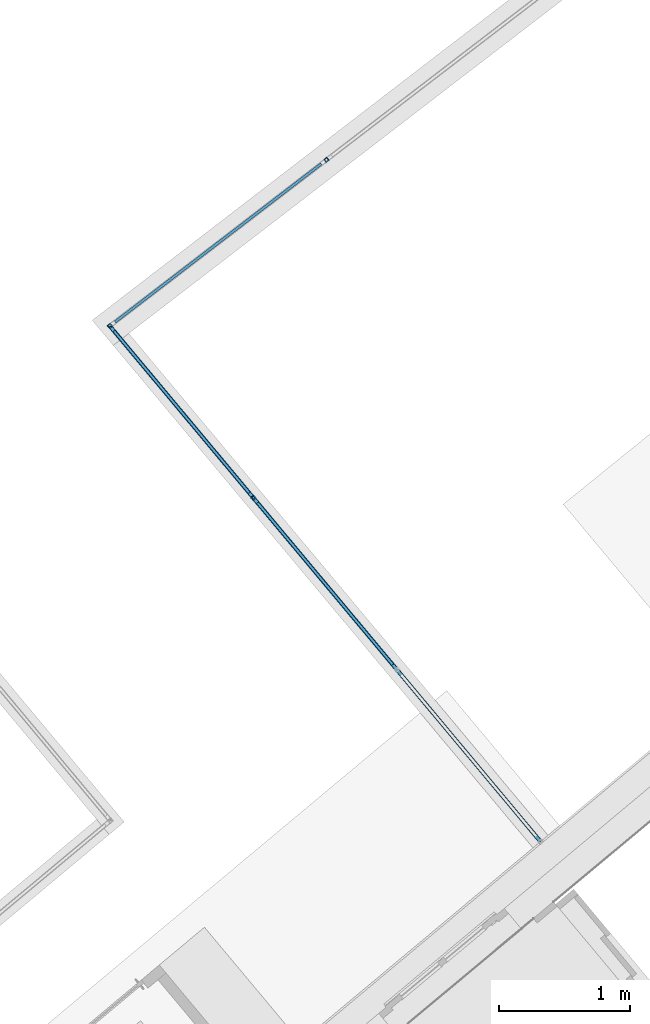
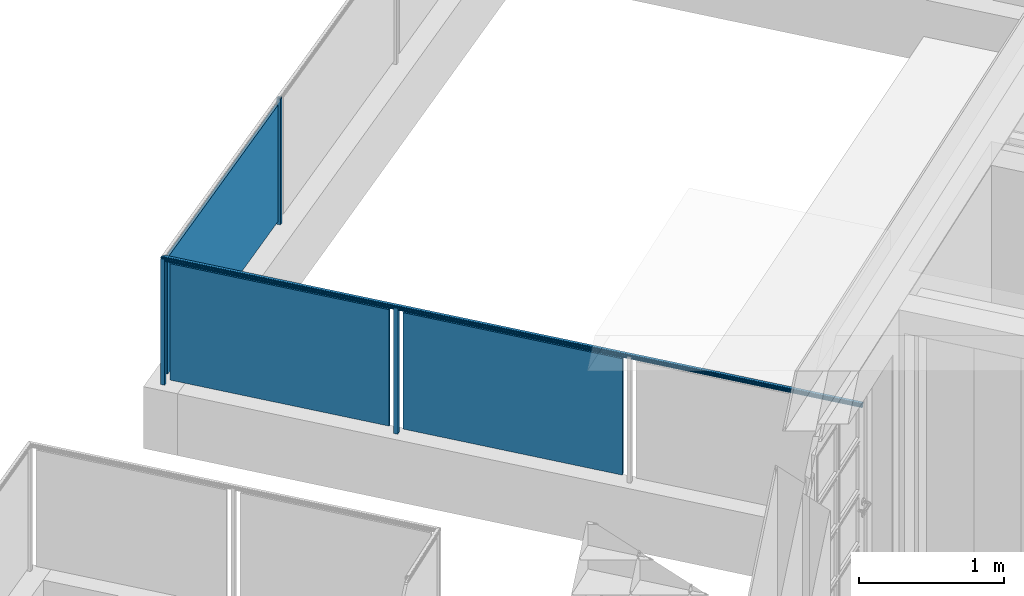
# One storey, part 39 of 67: 7 building element parts, 1 element without a shape of its own.
"""IFC4 building model written with IfcOpenShell, lengths in metres."""

import ifcopenshell
import ifcopenshell.guid

model = None  # the IFC model being written
_history = None  # IfcOwnerHistory: only IFC2X3 demands one
_inside = {}  # id of a spatial element -> (the spatial element, [elements in it])
_under = {}  # id of a project, library or spatial element -> (it, [spatial elements below it])
_declared = {}  # id of a project -> (the project, [libraries it declares])
_typed = {}  # id of a type object -> (the type object, [elements of that type])
_made_of = {}  # id of a material, layer set ... -> (it, [elements and type objects made of it])


def new_model(schema):
    """Start an empty IFC model of exactly this schema.

    Asked for "IFC4X3", IfcOpenShell would pick the latest addendum, in which some entities
    have other attributes; the version numbers below select the first issue.
    IFC2X3 requires an IfcOwnerHistory on every rooted entity: one is made here for all.
    """
    global model, _history
    if schema == "IFC4X3":
        model = ifcopenshell.file(schema_version=(4, 3, 0, 0))
    else:
        model = ifcopenshell.file(schema=schema)
    _inside.clear()
    _under.clear()
    _declared.clear()
    _typed.clear()
    _made_of.clear()
    _history = None
    if model.schema == "IFC2X3":
        org = make("IfcOrganization", Name="unknown")
        user = make(
            "IfcPersonAndOrganization",
            ThePerson=make("IfcPerson", FamilyName="unknown"),
            TheOrganization=org,
        )
        app = make(
            "IfcApplication",
            ApplicationDeveloper=org,
            Version="unknown",
            ApplicationFullName="unknown",
            ApplicationIdentifier="unknown",
        )
        _history = make(
            "IfcOwnerHistory",
            OwningUser=user,
            OwningApplication=app,
            ChangeAction="ADDED",
            CreationDate=0,
        )
    return model


def make(cls, **values):
    """One entity of the class cls with the attributes given. An attribute that is None is left unset."""
    return model.create_entity(
        cls, **{name: value for name, value in values.items() if value is not None}
    )


def entity(cls, *values):
    """Any entity or typed value of the class cls, its attributes in the order of the schema. None: left unset."""
    e = model.create_entity(cls)
    for i, value in enumerate(values):
        if value is not None:
            e[i] = value
    return e


def rooted(cls, **values):
    """An entity with a GlobalId (a new one), such as an element, a storey or a relation."""
    return make(cls, GlobalId=ifcopenshell.guid.new(), OwnerHistory=_history, **values)


def si_unit(unit_type, name, prefix=None):
    """IfcSIUnit, for example si_unit("LENGTHUNIT", "METRE", prefix="MILLI")."""
    return make("IfcSIUnit", UnitType=unit_type, Prefix=prefix, Name=name)


def converted_unit(unit_type, name, factor, base, dimensions=None, offset=None):
    """IfcConversionBasedUnit, such as the inch: factor (a typed value) times the base unit."""
    return make(
        "IfcConversionBasedUnit"
        if offset is None
        else "IfcConversionBasedUnitWithOffset",
        ConversionOffset=offset,
        Dimensions=None
        if dimensions is None
        else entity("IfcDimensionalExponents", *dimensions),
        UnitType=unit_type,
        Name=name,
        ConversionFactor=make(
            "IfcMeasureWithUnit", ValueComponent=factor, UnitComponent=base
        ),
    )


def derived_unit(unit_type, elements):
    """IfcDerivedUnit: a product of units, each with its exponent."""
    return make(
        "IfcDerivedUnit",
        Elements=[
            make("IfcDerivedUnitElement", Unit=unit, Exponent=power)
            for unit, power in elements
        ],
        UnitType=unit_type,
    )


def assignment(units):
    """IfcUnitAssignment: the units of a project."""
    return None if units is None else make("IfcUnitAssignment", Units=units)


def point(xyz):
    """IfcCartesianPoint."""
    return None if xyz is None else make("IfcCartesianPoint", Coordinates=xyz)


def direction(xyz):
    """IfcDirection."""
    return None if xyz is None else make("IfcDirection", DirectionRatios=xyz)


def frame(location, z_axis=None, x_axis=None):
    """IfcAxis2Placement3D, a coordinate frame: its origin and axes. An axis left out is left unset."""
    return make(
        "IfcAxis2Placement3D",
        Location=point(location),
        Axis=direction(z_axis),
        RefDirection=direction(x_axis),
    )


def origin_with_axes():
    """The frame at (0, 0, 0) with the z axis (0, 0, 1) and the x axis (1, 0, 0) written out."""
    return frame((0.0, 0.0, 0.0), z_axis=(0.0, 0.0, 1.0), x_axis=(1.0, 0.0, 0.0))


def place(relative_to, where):
    """IfcLocalPlacement: puts the frame where relative to a parent placement (None: the world)."""
    return make(
        "IfcLocalPlacement", PlacementRelTo=relative_to, RelativePlacement=where
    )


def context(
    kind, dimensions, precision=None, world=None, true_north=None, identifier=None
):
    """IfcGeometricRepresentationContext, for example the 3D "Model" context."""
    return make(
        "IfcGeometricRepresentationContext",
        ContextIdentifier=identifier,
        ContextType=kind,
        CoordinateSpaceDimension=dimensions,
        Precision=precision,
        WorldCoordinateSystem=world,
        TrueNorth=true_north,
    )


def subcontext(parent, identifier, kind, view, scale=None):
    """IfcGeometricRepresentationSubContext, for example "Body" below "Model"."""
    return make(
        "IfcGeometricRepresentationSubContext",
        ContextIdentifier=identifier,
        ContextType=kind,
        ParentContext=parent,
        TargetScale=scale,
        TargetView=view,
    )


def project(units=None, contexts=None):
    """IfcProject with its units and contexts."""
    return rooted(
        "IfcProject",
        Name="project",
        RepresentationContexts=contexts,
        UnitsInContext=assignment(units),
    )


def spatial(cls, under=None, at=None, **own):
    """A site, building, storey or space (cls), placed at a placement, below another one or the project."""
    s = rooted(cls, ObjectPlacement=at, **own)
    if under is not None:
        _under.setdefault(under.id(), (under, []))[1].append(s)
    return s


def point_list(points):
    """IfcCartesianPointList2D or 3D."""
    cls = (
        "IfcCartesianPointList2D" if len(points[0]) == 2 else "IfcCartesianPointList3D"
    )
    return make(cls, CoordList=points)


def polygons(points, faces, closed=None, point_numbers=None):
    """IfcPolygonalFaceSet: a face is its outer loop, then its inner loops; points numbered from 1."""
    made = []
    for loops in faces:
        if len(loops) == 1:
            made.append(make("IfcIndexedPolygonalFace", CoordIndex=loops[0]))
        else:
            made.append(
                make(
                    "IfcIndexedPolygonalFaceWithVoids",
                    CoordIndex=loops[0],
                    InnerCoordIndices=loops[1:],
                )
            )
    return make(
        "IfcPolygonalFaceSet",
        Coordinates=point_list(points),
        Closed=closed,
        Faces=made,
        PnIndex=point_numbers,
    )


def shape(context_of_items, identifier, shape_type, items):
    """IfcShapeRepresentation: the items that make up one representation, for example the "Body"."""
    return make(
        "IfcShapeRepresentation",
        ContextOfItems=context_of_items,
        RepresentationIdentifier=identifier,
        RepresentationType=shape_type,
        Items=items,
    )


def material(Name=None, Category=None):
    """IfcMaterial."""
    return make("IfcMaterial", Name=Name, Category=Category)


def made_of(thing, what):
    """Note that an element or type object is made of a material, layer set ...; save() writes the relation."""
    if what is not None:
        _made_of.setdefault(what.id(), (what, []))[1].append(thing)
    return thing


def type_object(cls, material=None, **own):
    """A type object (cls), such as IfcWallType, which elements share."""
    return made_of(rooted(cls, **own), material)


def element(
    cls,
    number,
    at=None,
    inside=None,
    cuts=None,
    type_object=None,
    material=None,
    context=None,
    identifier="Body",
    shape_type=None,
    held_by="IfcProductDefinitionShape",
    body=None,
    shapes=None,
    **own,
):
    """One element of the class cls, such as IfcWall. Its Tag is "e" and its number.

    at: its placement. inside: the storey or other place that contains it. cuts: it is an
    opening in that element (IfcRelVoidsElement). A single representation is given by context,
    identifier, shape_type and body (its items); several are given by shapes. held_by: the class
    of the entity that holds the representations. save() writes the other relations.
    """
    e = rooted(cls, Tag="e%d" % number, ObjectPlacement=at, **own)
    if body is not None:
        shapes = [shape(context, identifier, shape_type, body)]
    if shapes is not None:
        e.Representation = make(held_by, Representations=shapes)
    if inside is not None:
        _inside.setdefault(inside.id(), (inside, []))[1].append(e)
    if cuts is not None:
        rooted(
            "IfcRelVoidsElement", RelatingBuildingElement=cuts, RelatedOpeningElement=e
        )
    if type_object is not None:
        _typed.setdefault(type_object.id(), (type_object, []))[1].append(e)
    return made_of(e, material)


def aggregate(whole, parts):
    """IfcRelAggregates: a whole, such as a stair, and the parts it consists of."""
    return rooted("IfcRelAggregates", RelatingObject=whole, RelatedObjects=parts)


def save(model, path):
    """Write the relations noted so far, then the file.

    IfcRelAggregates (storeys below a building ...), IfcRelContainedInSpatialStructure (elements
    in a storey), IfcRelDefinesByType, IfcRelAssociatesMaterial and IfcRelDeclares: one each for
    every whole, place, type object, material and project.
    """
    for whole, parts in _under.values():
        aggregate(whole, parts)
    for where, things in _inside.values():
        rooted(
            "IfcRelContainedInSpatialStructure",
            RelatedElements=things,
            RelatingStructure=where,
        )
    for kind, things in _typed.values():
        rooted("IfcRelDefinesByType", RelatedObjects=things, RelatingType=kind)
    for what, things in _made_of.values():
        rooted("IfcRelAssociatesMaterial", RelatedObjects=things, RelatingMaterial=what)
    for by, libraries in _declared.values():
        rooted("IfcRelDeclares", RelatingContext=by, RelatedDefinitions=libraries)
    model.write(path)


model = new_model("IFC4")

# Units and contexts
model_context = context("Model", 3, precision=1e-05, world=origin_with_axes(), true_north=direction((0.0, 1.0)))
body_context = subcontext(model_context, "Body", "Model", "MODEL_VIEW")
ifc_project = project(units=[si_unit("LENGTHUNIT", "METRE"), si_unit("AREAUNIT", "SQUARE_METRE"), si_unit("VOLUMEUNIT", "CUBIC_METRE"), converted_unit("PLANEANGLEUNIT", "DEGREE", entity("IfcPlaneAngleMeasure", 0.0174532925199), si_unit("PLANEANGLEUNIT", "RADIAN"), dimensions=[0, 0, 0, 0, 0, 0, 0]), converted_unit("TIMEUNIT", "Year", entity("IfcTimeMeasure", 31556926.0), si_unit("TIMEUNIT", "SECOND"), dimensions=[0, 0, 1, 0, 0, 0, 0]), si_unit("MASSUNIT", "GRAM", prefix="KILO"), si_unit("THERMODYNAMICTEMPERATUREUNIT", "DEGREE_CELSIUS"), si_unit("LUMINOUSINTENSITYUNIT", "LUMEN"), si_unit("ENERGYUNIT", "JOULE", prefix="MEGA"), derived_unit("THERMALCONDUCTANCEUNIT", [(si_unit("POWERUNIT", "WATT"), 1), (si_unit("LENGTHUNIT", "METRE"), -1), (si_unit("THERMODYNAMICTEMPERATUREUNIT", "KELVIN"), -1)]), derived_unit("SPECIFICHEATCAPACITYUNIT", [(si_unit("ENERGYUNIT", "JOULE"), 1), (si_unit("MASSUNIT", "GRAM", prefix="KILO"), -1), (si_unit("THERMODYNAMICTEMPERATUREUNIT", "KELVIN"), -1)]), derived_unit("MASSDENSITYUNIT", [(si_unit("MASSUNIT", "GRAM", prefix="KILO"), 1), (si_unit("VOLUMEUNIT", "CUBIC_METRE"), -1)])], contexts=[model_context])

# Site, building, storey
site_placement = place(None, frame((-0.00153261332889, -0.00661245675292, 0.0), z_axis=(0.0, 0.0, 1.0), x_axis=(1.0, 0.0, 0.0)))
site = spatial("IfcSite", under=ifc_project, at=site_placement, Name="Site", CompositionType="ELEMENT")
building_placement = place(site_placement, origin_with_axes())
building = spatial("IfcBuilding", under=site, at=building_placement, Name="Building", CompositionType="ELEMENT")
storey_placement = place(building_placement, frame((0.0, 0.0, -0.22), z_axis=(0.0, 0.0, 1.0), x_axis=(1.0, 0.0, 0.0)))
storey = spatial("IfcBuildingStorey", under=building, at=storey_placement, Name="EG", CompositionType="ELEMENT", Elevation=-0.22)

# Railing, building element parts
railing_type = type_object("IfcRailingType", Name="Geländerart", PredefinedType="NOTDEFINED")
railing_placement = place(storey_placement, frame((0.180685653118, 26.4249004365, 0.523948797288), z_axis=(0.0, 0.0, 1.0), x_axis=(1.0, 0.0, 0.0)))
railing = element("IfcRailing", 1, at=railing_placement, inside=storey, type_object=railing_type, Name="Geländer - 001", PredefinedType="NOTDEFINED")
ifc_material_1 = material(Name="Aluminium")
building_element_part_1_placement = place(railing_placement, origin_with_axes())
building_element_part_1 = element("IfcBuildingElementPart", 2, at=building_element_part_1_placement, material=ifc_material_1, Name="Aluminium", PredefinedType="NOTDEFINED", context=body_context, shape_type="Tessellation", body=[
    polygons([(-3.23242881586, 4.00997102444, 0.0), (-3.25545269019, 3.99073820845, 0.0), (-3.25545269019, 3.99073820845, 1.06), (-3.23242881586, 4.00997102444, 1.06), (-3.21319599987, 3.98694715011, 0.0), (-3.2362198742, 3.96771433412, 0.0), (-3.23306065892, 4.00292824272, 0.0), (-3.24840990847, 3.99010636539, 0.0), (-3.23558803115, 3.97475711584, 0.0), (-3.22023878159, 3.98757899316, 0.0), (-3.2362198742, 3.96771433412, 1.06), (-3.21319599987, 3.98694715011, 1.06), (-3.23306065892, 4.00292824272, 1.06), (-3.22023878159, 3.98757899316, 1.06), (-3.23558803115, 3.97475711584, 1.06), (-3.24840990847, 3.99010636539, 1.06)], [[[1, 2, 3, 4]], [[1, 5, 6, 2], [7, 8, 9, 10]], [[2, 6, 11, 3]], [[4, 3, 11, 12], [13, 14, 15, 16]], [[5, 1, 4, 12]], [[6, 5, 12, 11]], [[8, 7, 13, 16]], [[9, 8, 16, 15]], [[10, 9, 15, 14]], [[7, 10, 14, 13]]], closed=True),
])
building_element_part_2_placement = place(railing_placement, origin_with_axes())
building_element_part_2 = element("IfcBuildingElementPart", 3, at=building_element_part_2_placement, material=ifc_material_1, Name="Aluminium", PredefinedType="NOTDEFINED", context=body_context, shape_type="Tessellation", body=[
    polygons([(0.0653380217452, 0.0545796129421, 1.07636363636), (0.0655184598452, 0.0547303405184, 1.07634109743), (-3.21943358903, 3.98719260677, 1.07634109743), (-3.21977118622, 3.98723001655, 1.07636363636), (0.0653380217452, 0.0545796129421, 1.07818181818), (0.0652906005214, 0.0545399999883, 1.07820551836), (0.0627600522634, 0.0524261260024, 1.0792391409), (0.0601928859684, 0.0502816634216, 1.07983921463), (0.057608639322, 0.0481229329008, 1.08000117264), (0.0575596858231, 0.0480820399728, 1.08), (0.0575107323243, 0.0480411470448, 1.08000117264), (0.0549264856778, 0.045882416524, 1.07983921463), (0.0523593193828, 0.0437379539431, 1.0792391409), (0.0498287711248, 0.0416240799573, 1.07820551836), (0.0497813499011, 0.0415844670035, 1.07818181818), (0.0497813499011, 0.0415844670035, 1.07636363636), (0.0496009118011, 0.0414337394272, 1.07634109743), (0.0489327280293, 0.0408755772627, 1.0761115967), (0.048295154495, 0.0403429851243, 1.07565956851), (0.0477075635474, 0.0398521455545, 1.07499874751), (0.0471878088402, 0.0394179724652, 1.0741492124), (0.0467516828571, 0.0390536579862, 1.07313677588), (0.0464124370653, 0.0387702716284, 1.07199220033), (0.0461803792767, 0.038576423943, 1.07075026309), (0.0460625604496, 0.0384780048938, 1.06944869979), (0.0460625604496, 0.0384780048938, 1.06812705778), (0.0461803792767, 0.038576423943, 1.06682549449), (0.0464124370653, 0.0387702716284, 1.06558355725), (0.0467516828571, 0.0390536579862, 1.06443898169), (0.0471878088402, 0.0394179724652, 1.06342654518), (0.0477075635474, 0.0398521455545, 1.06257701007), (0.048295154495, 0.0403429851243, 1.06191618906), (0.0489327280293, 0.0408755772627, 1.06146416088), (0.0496009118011, 0.0414337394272, 1.06123466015), (0.0497813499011, 0.0415844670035, 1.06121212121), (0.0497813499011, 0.0415844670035, 1.05818181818), (0.0499033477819, 0.041686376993, 1.05810011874), (0.0504716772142, 0.0421611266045, 1.05758389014), (0.0509853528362, 0.0425902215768, 1.05688326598), (0.0514287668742, 0.0429606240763, 1.05601953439), (0.051788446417, 0.0432610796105, 1.05501893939), (0.0520534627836, 0.04348245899, 1.05391188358), (0.0522157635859, 0.0436180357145, 1.05273200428), (0.0522704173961, 0.0436636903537, 1.05151515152), (0.0522157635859, 0.0436180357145, 1.05029829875), (0.0520534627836, 0.04348245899, 1.04911841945), (0.051788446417, 0.0432610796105, 1.04801136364), (0.0514287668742, 0.0429606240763, 1.04701076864), (0.0509853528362, 0.0425902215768, 1.04614703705), (0.0504716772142, 0.0421611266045, 1.04544641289), (0.0499033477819, 0.041686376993, 1.04493018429), (0.0497813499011, 0.0415844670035, 1.04484848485), (0.0497813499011, 0.0415844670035, 1.04), (0.0653380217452, 0.0545796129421, 1.04), (0.0653380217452, 0.0545796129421, 1.04484848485), (0.0652160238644, 0.0544777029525, 1.04493018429), (0.0646476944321, 0.0540029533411, 1.04544641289), (0.06413401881, 0.0535738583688, 1.04614703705), (0.063690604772, 0.0532034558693, 1.04701076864), (0.0633309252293, 0.0529030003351, 1.04801136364), (0.0630659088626, 0.0526816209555, 1.04911841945), (0.0629036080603, 0.0525460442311, 1.05029829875), (0.0628489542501, 0.0525003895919, 1.05151515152), (0.0629036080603, 0.0525460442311, 1.05273200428), (0.0630659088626, 0.0526816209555, 1.05391188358), (0.0633309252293, 0.0529030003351, 1.05501893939), (0.063690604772, 0.0532034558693, 1.05601953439), (0.06413401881, 0.0535738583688, 1.05688326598), (0.0646476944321, 0.0540029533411, 1.05758389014), (0.0652160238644, 0.0544777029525, 1.05810011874), (0.0653380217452, 0.0545796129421, 1.05818181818), (0.0653380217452, 0.0545796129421, 1.06121212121), (0.0655184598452, 0.0547303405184, 1.06123466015), (0.0661866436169, 0.0552885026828, 1.06146416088), (0.0668242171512, 0.0558210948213, 1.06191618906), (0.0674118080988, 0.0563119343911, 1.06257701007), (0.067931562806, 0.0567461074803, 1.06342654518), (0.0683676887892, 0.0571104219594, 1.06443898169), (0.0687069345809, 0.0573938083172, 1.06558355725), (0.0689389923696, 0.0575876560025, 1.06682549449), (0.0690568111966, 0.0576860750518, 1.06812705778), (0.0690568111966, 0.0576860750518, 1.06944869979), (0.0689389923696, 0.0575876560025, 1.07075026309), (0.0687069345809, 0.0573938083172, 1.07199220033), (0.0683676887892, 0.0571104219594, 1.07313677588), (0.067931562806, 0.0567461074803, 1.0741492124), (0.0674118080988, 0.0563119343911, 1.07499874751), (0.0668242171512, 0.0558210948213, 1.07565956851), (0.0661866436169, 0.0552885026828, 1.0761115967), (-3.21818342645, 3.98705407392, 1.0761115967), (-3.21699053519, 3.98692188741, 1.07565956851), (-3.21589116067, 3.98680006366, 1.07499874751), (-3.21491870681, 3.98669230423, 1.0741492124), (-3.21410272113, 3.98660188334, 1.07313677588), (-3.21346799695, 3.98653154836, 1.07199220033), (-3.21303382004, 3.98648343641, 1.07075026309), (-3.21281338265, 3.98645900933, 1.06944869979), (-3.21281338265, 3.98645900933, 1.06812705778), (-3.21303382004, 3.98648343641, 1.06682549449), (-3.21346799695, 3.98653154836, 1.06558355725), (-3.21410272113, 3.98660188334, 1.06443898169), (-3.21491870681, 3.98669230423, 1.06342654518), (-3.21589116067, 3.98680006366, 1.06257701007), (-3.21699053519, 3.98692188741, 1.06191618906), (-3.21818342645, 3.98705407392, 1.06146416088), (-3.21943358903, 3.98719260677, 1.06123466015), (-3.21977118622, 3.98723001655, 1.06121212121), (-3.21977118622, 3.98723001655, 1.05818181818), (-3.21999944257, 3.98725531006, 1.05810011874), (-3.22106277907, 3.98737314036, 1.05758389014), (-3.22202385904, 3.98747963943, 1.05688326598), (-3.22285348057, 3.98757157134, 1.05601953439), (-3.22352643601, 3.9876461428, 1.05501893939), (-3.22402227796, 3.98770108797, 1.05391188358), (-3.22432594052, 3.98773473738, 1.05273200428), (-3.22442819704, 3.98774606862, 1.05151515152), (-3.22432594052, 3.98773473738, 1.05029829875), (-3.22402227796, 3.98770108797, 1.04911841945), (-3.22352643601, 3.9876461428, 1.04801136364), (-3.22285348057, 3.98757157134, 1.04701076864), (-3.22202385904, 3.98747963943, 1.04614703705), (-3.22106277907, 3.98737314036, 1.04544641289), (-3.21999944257, 3.98725531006, 1.04493018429), (-3.21977118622, 3.98723001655, 1.04484848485), (-3.21977118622, 3.98723001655, 1.04), (-3.24887750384, 3.99045534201, 1.04), (-3.24887750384, 3.99045534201, 1.04484848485), (-3.2486492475, 3.99043004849, 1.04493018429), (-3.247585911, 3.99031221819, 1.04544641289), (-3.24662483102, 3.99020571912, 1.04614703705), (-3.2457952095, 3.99011378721, 1.04701076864), (-3.24512225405, 3.99003921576, 1.04801136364), (-3.2446264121, 3.98998427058, 1.04911841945), (-3.24432274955, 3.98995062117, 1.05029829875), (-3.24422049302, 3.98993928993, 1.05151515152), (-3.24432274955, 3.98995062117, 1.05273200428), (-3.2446264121, 3.98998427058, 1.05391188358), (-3.24512225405, 3.99003921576, 1.05501893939), (-3.2457952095, 3.99011378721, 1.05601953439), (-3.24662483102, 3.99020571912, 1.05688326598), (-3.247585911, 3.99031221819, 1.05758389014), (-3.2486492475, 3.99043004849, 1.05810011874), (-3.24887750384, 3.99045534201, 1.05818181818), (-3.24887750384, 3.99045534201, 1.06121212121), (-3.24921510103, 3.99049275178, 1.06123466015), (-3.25046526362, 3.99063128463, 1.06146416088), (-3.25165815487, 3.99076347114, 1.06191618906), (-3.2527575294, 3.99088529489, 1.06257701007), (-3.25372998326, 3.99099305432, 1.06342654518), (-3.25454596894, 3.99108347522, 1.06443898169), (-3.25518069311, 3.99115381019, 1.06558355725), (-3.25561487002, 3.99120192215, 1.06682549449), (-3.25583530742, 3.99122634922, 1.06812705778), (-3.25583530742, 3.99122634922, 1.06944869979), (-3.25561487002, 3.99120192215, 1.07075026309), (-3.25518069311, 3.99115381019, 1.07199220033), (-3.25454596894, 3.99108347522, 1.07313677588), (-3.25372998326, 3.99099305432, 1.0741492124), (-3.2527575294, 3.99088529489, 1.07499874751), (-3.25165815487, 3.99076347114, 1.07565956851), (-3.25046526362, 3.99063128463, 1.0761115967), (-3.24921510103, 3.99049275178, 1.07634109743), (-3.24887750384, 3.99045534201, 1.07636363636), (-3.24887750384, 3.99045534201, 1.07818181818), (-3.24878877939, 3.99044551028, 1.07820551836), (-3.24405415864, 3.98992085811, 1.0792391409), (-3.23925102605, 3.98938861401, 1.07983921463), (-3.23441593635, 3.98885282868, 1.08000117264), (-3.23432434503, 3.98884267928, 1.08), (-3.23423275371, 3.98883252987, 1.08000117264), (-3.22939766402, 3.98829674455, 1.07983921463), (-3.22459453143, 3.98776450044, 1.0792391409), (-3.21985991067, 3.98723984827, 1.07820551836), (-3.21977118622, 3.98723001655, 1.07818181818)], [[[1, 2, 3, 4]], [[1, 5, 6, 7, 8, 9, 10, 11, 12, 13, 14, 15, 16, 17, 18, 19, 20, 21, 22, 23, 24, 25, 26, 27, 28, 29, 30, 31, 32, 33, 34, 35, 36, 37, 38, 39, 40, 41, 42, 43, 44, 45, 46, 47, 48, 49, 50, 51, 52, 53, 54, 55, 56, 57, 58, 59, 60, 61, 62, 63, 64, 65, 66, 67, 68, 69, 70, 71, 72, 73, 74, 75, 76, 77, 78, 79, 80, 81, 82, 83, 84, 85, 86, 87, 88, 89, 2]], [[2, 89, 90, 3]], [[4, 3, 90, 91, 92, 93, 94, 95, 96, 97, 98, 99, 100, 101, 102, 103, 104, 105, 106, 107, 108, 109, 110, 111, 112, 113, 114, 115, 116, 117, 118, 119, 120, 121, 122, 123, 124, 125, 126, 127, 128, 129, 130, 131, 132, 133, 134, 135, 136, 137, 138, 139, 140, 141, 142, 143, 144, 145, 146, 147, 148, 149, 150, 151, 152, 153, 154, 155, 156, 157, 158, 159, 160, 161, 162, 163, 164, 165, 166, 167, 168, 169, 170, 171, 172, 173, 174]], [[5, 1, 4, 174]], [[6, 5, 174, 173]], [[7, 6, 173, 172]], [[8, 7, 172, 171]], [[9, 8, 171, 170]], [[10, 9, 170, 169]], [[11, 10, 169, 168]], [[12, 11, 168, 167]], [[13, 12, 167, 166]], [[14, 13, 166, 165]], [[15, 14, 165, 164]], [[16, 15, 164, 163]], [[17, 16, 163, 162]], [[18, 17, 162, 161]], [[19, 18, 161, 160]], [[20, 19, 160, 159]], [[21, 20, 159, 158]], [[22, 21, 158, 157]], [[23, 22, 157, 156]], [[24, 23, 156, 155]], [[25, 24, 155, 154]], [[26, 25, 154, 153]], [[27, 26, 153, 152]], [[28, 27, 152, 151]], [[29, 28, 151, 150]], [[30, 29, 150, 149]], [[31, 30, 149, 148]], [[32, 31, 148, 147]], [[33, 32, 147, 146]], [[34, 33, 146, 145]], [[35, 34, 145, 144]], [[36, 35, 144, 143]], [[37, 36, 143, 142]], [[38, 37, 142, 141]], [[39, 38, 141, 140]], [[40, 39, 140, 139]], [[41, 40, 139, 138]], [[42, 41, 138, 137]], [[43, 42, 137, 136]], [[44, 43, 136, 135]], [[45, 44, 135, 134]], [[46, 45, 134, 133]], [[47, 46, 133, 132]], [[48, 47, 132, 131]], [[49, 48, 131, 130]], [[50, 49, 130, 129]], [[51, 50, 129, 128]], [[52, 51, 128, 127]], [[53, 52, 127, 126]], [[54, 53, 126, 125]], [[55, 54, 125, 124]], [[56, 55, 124, 123]], [[57, 56, 123, 122]], [[58, 57, 122, 121]], [[59, 58, 121, 120]], [[60, 59, 120, 119]], [[61, 60, 119, 118]], [[62, 61, 118, 117]], [[63, 62, 117, 116]], [[64, 63, 116, 115]], [[65, 64, 115, 114]], [[66, 65, 114, 113]], [[67, 66, 113, 112]], [[68, 67, 112, 111]], [[69, 68, 111, 110]], [[70, 69, 110, 109]], [[71, 70, 109, 108]], [[72, 71, 108, 107]], [[73, 72, 107, 106]], [[74, 73, 106, 105]], [[75, 74, 105, 104]], [[76, 75, 104, 103]], [[77, 76, 103, 102]], [[78, 77, 102, 101]], [[79, 78, 101, 100]], [[80, 79, 100, 99]], [[81, 80, 99, 98]], [[82, 81, 98, 97]], [[83, 82, 97, 96]], [[84, 83, 96, 95]], [[85, 84, 95, 94]], [[86, 85, 94, 93]], [[87, 86, 93, 92]], [[88, 87, 92, 91]], [[89, 88, 91, 90]]], closed=True),
])
ifc_material_2 = material(Name="Zaun")
building_element_part_3_placement = place(railing_placement, origin_with_axes())
building_element_part_3 = element("IfcBuildingElementPart", 4, at=building_element_part_3_placement, material=ifc_material_2, Name="Zaun", PredefinedType="NOTDEFINED", context=body_context, shape_type="Tessellation", body=[
    polygons([(-2.11264959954, 2.63047173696, 0.05), (-1.07946430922, 1.39363110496, 0.05), (-1.07946430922, 1.39363110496, 1.03), (-2.11264959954, 2.63047173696, 1.03), (-1.06411505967, 1.40645298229, 0.05), (-2.09730034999, 2.64329361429, 0.05), (-1.06411505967, 1.40645298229, 1.03), (-2.09730034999, 2.64329361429, 1.03)], [[[1, 2, 3, 4]], [[5, 2, 1, 6]], [[7, 3, 2, 5]], [[4, 3, 7, 8]], [[1, 4, 8, 6]], [[7, 5, 6, 8]]], closed=True),
])
building_element_part_4_placement = place(railing_placement, origin_with_axes())
building_element_part_4 = element("IfcBuildingElementPart", 5, at=building_element_part_4_placement, material=ifc_material_1, Name="Aluminium", PredefinedType="NOTDEFINED", context=body_context, shape_type="Tessellation", body=[
    polygons([(-2.13513413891, 2.69638414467, 0.0), (-2.15815801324, 2.67715132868, 0.0), (-2.15815801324, 2.67715132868, 1.06), (-2.13513413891, 2.69638414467, 1.06), (-2.11590132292, 2.67336027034, 0.0), (-2.13892519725, 2.65412745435, 0.0), (-2.13576598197, 2.68934136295, 0.0), (-2.15111523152, 2.67651948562, 0.0), (-2.13829335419, 2.66117023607, 0.0), (-2.12294410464, 2.6739921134, 0.0), (-2.13892519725, 2.65412745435, 1.06), (-2.11590132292, 2.67336027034, 1.06), (-2.13576598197, 2.68934136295, 1.06), (-2.12294410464, 2.6739921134, 1.06), (-2.13829335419, 2.66117023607, 1.06), (-2.15111523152, 2.67651948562, 1.06)], [[[1, 2, 3, 4]], [[1, 5, 6, 2], [7, 8, 9, 10]], [[2, 6, 11, 3]], [[4, 3, 11, 12], [13, 14, 15, 16]], [[5, 1, 4, 12]], [[6, 5, 12, 11]], [[8, 7, 13, 16]], [[9, 8, 16, 15]], [[10, 9, 15, 14]], [[7, 10, 14, 13]]], closed=True),
])
building_element_part_5_placement = place(railing_placement, origin_with_axes())
building_element_part_5 = element("IfcBuildingElementPart", 6, at=building_element_part_5_placement, material=ifc_material_2, Name="Zaun", PredefinedType="NOTDEFINED", context=body_context, shape_type="Tessellation", body=[
    polygons([(-3.20994427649, 3.94405861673, 0.05), (-2.17675898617, 2.70721798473, 0.05), (-2.17675898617, 2.70721798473, 1.03), (-3.20994427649, 3.94405861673, 1.03), (-2.16140973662, 2.72003986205, 0.05), (-3.19459502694, 3.95688049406, 0.05), (-2.16140973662, 2.72003986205, 1.03), (-3.19459502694, 3.95688049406, 1.03)], [[[1, 2, 3, 4]], [[5, 2, 1, 6]], [[7, 3, 2, 5]], [[4, 3, 7, 8]], [[1, 4, 8, 6]], [[7, 5, 6, 8]]], closed=True),
])
building_element_part_6_placement = place(railing_placement, origin_with_axes())
building_element_part_6 = element("IfcBuildingElementPart", 7, at=building_element_part_6_placement, material=ifc_material_2, Name="Zaun", PredefinedType="NOTDEFINED", context=body_context, shape_type="Tessellation", body=[
    polygons([(-1.62435176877, 5.23592927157, 0.05), (-3.20073093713, 4.02720259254, 0.05), (-3.20073093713, 4.02720259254, 1.03), (-1.62435176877, 5.23592927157, 1.03), (-3.18856123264, 4.01133128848, 0.05), (-1.61218206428, 5.22005796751, 0.05), (-3.18856123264, 4.01133128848, 1.03), (-1.61218206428, 5.22005796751, 1.03)], [[[1, 2, 3, 4]], [[5, 2, 1, 6]], [[7, 3, 2, 5]], [[4, 3, 7, 8]], [[1, 4, 8, 6]], [[7, 5, 6, 8]]], closed=True),
])
building_element_part_7_placement = place(railing_placement, origin_with_axes())
building_element_part_7 = element("IfcBuildingElementPart", 8, at=building_element_part_7_placement, material=ifc_material_1, Name="Aluminium", PredefinedType="NOTDEFINED", context=body_context, shape_type="Tessellation", body=[
    polygons([(-1.55755789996, 5.2556416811, 0.0), (-1.5758124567, 5.27944863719, 0.0), (-1.5758124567, 5.27944863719, 1.06), (-1.55755789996, 5.2556416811, 1.06), (-1.58136485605, 5.23738712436, 0.0), (-1.59961941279, 5.26119408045, 0.0), (-1.5645681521, 5.25656708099, 0.0), (-1.57673785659, 5.27243838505, 0.0), (-1.59260916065, 5.26026868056, 0.0), (-1.58043945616, 5.2443973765, 0.0), (-1.59961941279, 5.26119408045, 1.06), (-1.58136485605, 5.23738712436, 1.06), (-1.5645681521, 5.25656708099, 1.06), (-1.58043945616, 5.2443973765, 1.06), (-1.59260916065, 5.26026868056, 1.06), (-1.57673785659, 5.27243838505, 1.06)], [[[1, 2, 3, 4]], [[1, 5, 6, 2], [7, 8, 9, 10]], [[2, 6, 11, 3]], [[4, 3, 11, 12], [13, 14, 15, 16]], [[5, 1, 4, 12]], [[6, 5, 12, 11]], [[8, 7, 13, 16]], [[9, 8, 16, 15]], [[10, 9, 15, 14]], [[7, 10, 14, 13]]], closed=True),
])
aggregate(railing, [building_element_part_1, building_element_part_2, building_element_part_3, building_element_part_4, building_element_part_5, building_element_part_6, building_element_part_7])

save(model, "model.ifc")
